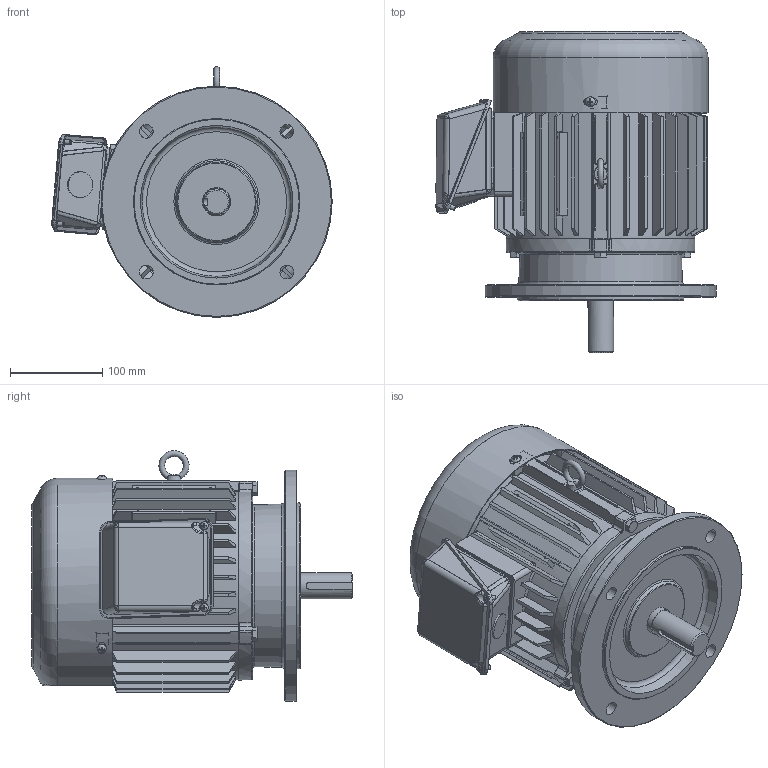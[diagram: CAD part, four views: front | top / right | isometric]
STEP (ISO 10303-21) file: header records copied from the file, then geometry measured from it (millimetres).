
FILE_DESCRIPTION(/* description */ ('Unknown'),/* implementation_level */ '2;1');
FILE_NAME(/* name */ '1-SMA-33830_외형도(194DIA)',/* time_stamp */ '2026-07-24T08:44:41+09:00',/* author */ ('Unknown'),/* organization */ ('Unknown'),/* preprocessor_version */ 'ST-DEVELOPER v16',/* originating_system */ 'DEX',/* authorisation */ $);
FILE_SCHEMA (('AUTOMOTIVE_DESIGN {1 0 10303 214 3 1 1}'));
Products named in the file (18): 1-SMA-33830_寇屈档(194DI; 2-SMA-30874_FRAME(194DIA); 3-SMA-30875_擅粽塭鰍(194D; 4-SMA-30872N_第宏扼南(194D?悹罁/; 5-SMA-30876_SHAFT(194DIA); 6-SMA-31243_FAN(194DIA); 7-SMA-30644_FAN COVER(194DIA); Iｺｼﾆｮ M8x1.25x15瓮; 幫陝獐お M8x1.25x; 菅斬 褊濠 M6x1x; 2.2~3.7kW(3~5HP)_攪嘐割 夢蝶(178, 194; T-BOX 憶っ(178~194DIA; 8-SMA-33042_T-BOX(鼻)(194DIA); 9-SMA-33043_T-BOX(ж)(194DIA); T-BOX ÀÓ½Ã ÄÉÀÌºí±×·£µå(178~ë“œ(178~194DIA); 褊濠 菅斬 該葬 獐お M5x; 6306ZZ; 6205ZZ
Assembly tree (25 placements, depth 3):
  1-SMA-33830_寇屈档(194DI
    2-SMA-30874_FRAME(194DIA)
    3-SMA-30875_擅粽塭鰍(194D
    4-SMA-30872N_第宏扼南(194D?悹罁/
    5-SMA-30876_SHAFT(194DIA)
    6-SMA-31243_FAN(194DIA)
    7-SMA-30644_FAN COVER(194DIA)
    Iｺｼﾆｮ M8x1.25x15瓮
    幫陝獐お M8x1.25x  x6
    菅斬 褊濠 M6x1x  x3
    2.2~3.7kW(3~5HP)_攪嘐割 夢蝶(178, 194
      T-BOX 憶っ(178~194DIA
      8-SMA-33042_T-BOX(鼻)(194DIA)
      9-SMA-33043_T-BOX(ж)(194DIA)
      T-BOX ÀÓ½Ã ÄÉÀÌºí±×·£µå(178~ë“œ(178~194DIA)
      褊濠 菅斬 該葬 獐お M5x  x2
    6306ZZ
    6205ZZ
Bounding box: 303.22 x 347 x 271.1 mm (x, y, z)
Volume: 2410917.8 mm3; surface area: 1027809.9 mm2
Topology: 46 solids, 46 shells, 1738 faces, 4293 edges, 2694 vertices
Faces by surface type: plane 582, cylinder 527, cone 313, torus 158, bspline 117, sphere 41
Full cylindrical faces by diameter (mm): 2.2 x4, 4.134 x2, 4.917 x2, 5 x2, 6 x8, 6.6 x4, 6.647 x13, 7 x2, 8 x14, 9 x2, 10 x6, 15 x4, 22 x1, 24.8 x1, 25 x2, 25.6 x1, 28 x3, 29.8 x1, 30 x2, 30.6 x1, 31.1 x1, 32.714 x2, 33.114 x2, 34 x1, 40 x4, 42 x2, 42.4 x2, 43.886 x2, 44.286 x2, 52 x2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
Entity records: 62461 total; most frequent: CARTESIAN_POINT 22780, DIRECTION 7423, ORIENTED_EDGE 7246, EDGE_CURVE 3623, AXIS2_PLACEMENT_3D 3085, VERTEX_POINT 2406, FACE_BOUND 1983, EDGE_LOOP 1956
